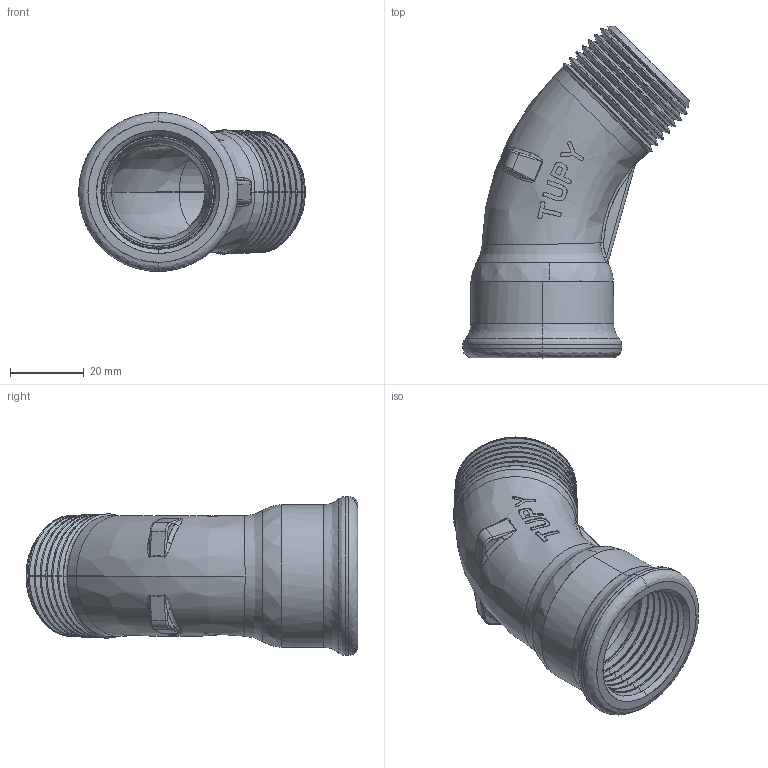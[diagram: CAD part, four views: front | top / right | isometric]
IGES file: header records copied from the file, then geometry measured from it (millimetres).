
Start section: SolidWorks IGES file using analytic representation for surfaces
Global section: file name: C:\Users\Joel Rosa\Desktop\Tubulação\12-27-OK\12-27-007.IGS; native system: SolidWorks 2011; preprocessor: SolidWorks 2011; author: Joel Rosa; date: 131025.221418; units: millimetre
Bounding box: 61.27 x 89.77 x 43 mm (x, y, z)
Surface area: 20930.2 mm2 (no closed solid volume)
Topology: 0 solids, 0 shells, 306 faces, 2675 edges, 2675 vertices
Faces by surface type: bspline 218, revolution 88
